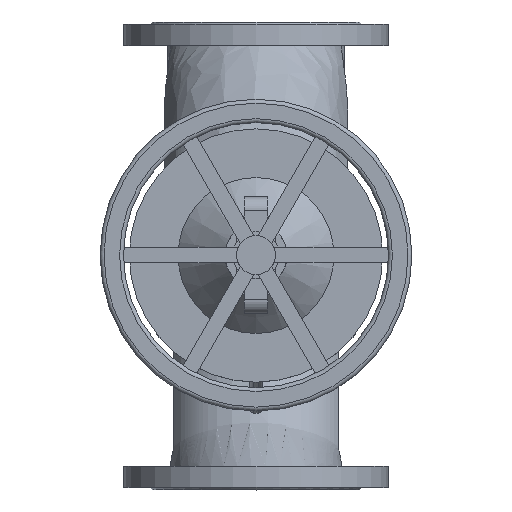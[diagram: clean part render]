
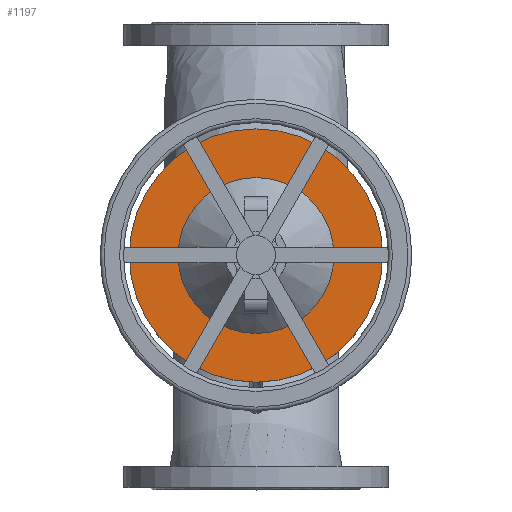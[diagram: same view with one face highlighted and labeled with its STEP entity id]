
A CAD part, top view. The second image highlights one B-rep face of the part: STEP entity #1197.
In plain terms, the highlighted planar face has unit normal (0, 0, 1).
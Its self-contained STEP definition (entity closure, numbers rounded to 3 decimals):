
#1197=ADVANCED_FACE('',(#10094,#10096),#10098,.T.);
#10094=FACE_BOUND('',#10095,.T.);
#10095=EDGE_LOOP('',(#17146));
#10096=FACE_BOUND('',#10097,.T.);
#10097=EDGE_LOOP('',(#17147));
#10098=PLANE('',#10099);
#10099=AXIS2_PLACEMENT_3D('',#10100,#10101,#10102);
#10100=CARTESIAN_POINT('',(0.,0.,343.));
#10101=DIRECTION('',(0.,0.,1.));
#10102=DIRECTION('',(0.,1.,0.));
#17146=ORIENTED_EDGE('',*,*,#18107,.F.);
#17147=ORIENTED_EDGE('',*,*,#18145,.T.);
#18107=EDGE_CURVE('',#18998,#18998,#18999,.T.);
#18145=EDGE_CURVE('',#19064,#19064,#19065,.T.);
#18998=VERTEX_POINT('',#24131);
#18999=CIRCLE('',#24132,162.5);
#19064=VERTEX_POINT('',#25136);
#19065=CIRCLE('',#25137,100.);
#24131=CARTESIAN_POINT('',(0.,162.5,343.));
#24132=AXIS2_PLACEMENT_3D('',#24133,#24134,#24135);
#24133=CARTESIAN_POINT('',(0.,0.,343.));
#24134=DIRECTION('',(0.,0.,-1.));
#24135=DIRECTION('',(0.,1.,0.));
#25136=CARTESIAN_POINT('',(0.,100.,343.));
#25137=AXIS2_PLACEMENT_3D('',#25138,#25139,#25140);
#25138=CARTESIAN_POINT('',(0.,0.,343.));
#25139=DIRECTION('',(0.,0.,-1.));
#25140=DIRECTION('',(0.,1.,0.));
